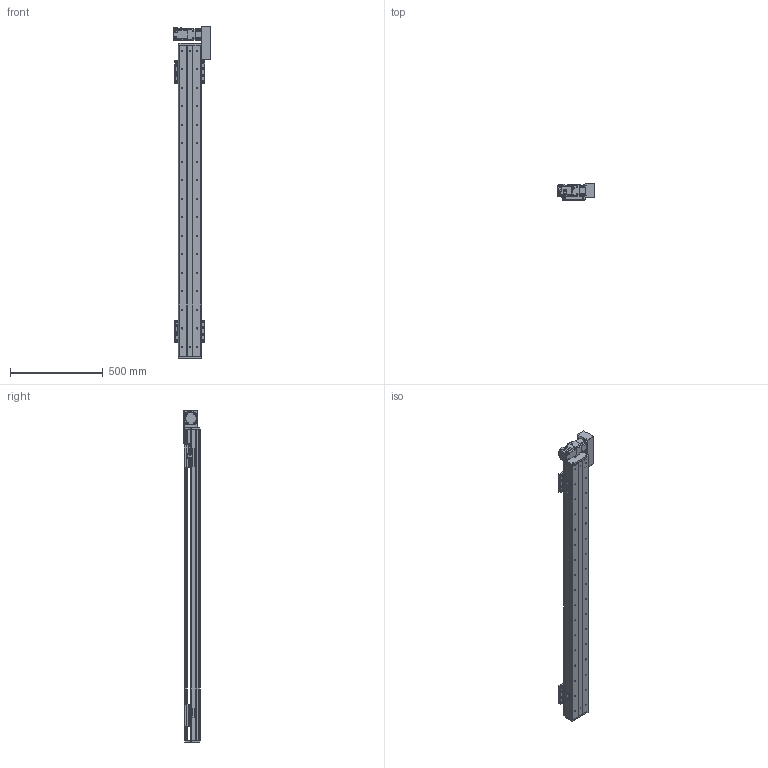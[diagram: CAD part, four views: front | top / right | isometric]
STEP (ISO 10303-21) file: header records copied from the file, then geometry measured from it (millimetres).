
FILE_DESCRIPTION(/* description */ (''),/* implementation_level */ '2;1');
FILE_NAME(/* name */ 'C:\Users\PC\Desktop\3D도면\STEP\STEP\DSB125-R2G-W1400-L.stp',/* time_stamp */ '2018-06-13T16:00:01+09:00',/* author */ ('PC'),/* organization */ (''),/* preprocessor_version */ 'ST-DEVELOPER v16.5',/* originating_system */ 'Autodesk Inventor 2017',/* authorisation */ '');
FILE_SCHEMA (('AUTOMOTIVE_DESIGN { 1 0 10303 214 3 1 1 }'));
Length unit declared in the file: millimetre
Products named in the file (12): DSB125-L2G-W1400-R_MIR; DSB125-BASE_MIR; DSB125-FRONT COVER_MIR; DSB125-REAR COVER_MIR; DSB125-UP COVER_MIR; DSB125-TABLE(MSB15S)_MIR; hg-kr23__MIR; ab0601-p0401200402_MIR; 13-BELT COVER_MIR; DSR125-SENSOR DOG_MIR; pm-y65_step_MIR; SENSOR BRACKET(EE-SX674A)_MIR
Assembly tree (16 placements, depth 2):
  DSB125-L2G-W1400-R_MIR
    DSB125-BASE_MIR
    DSB125-FRONT COVER_MIR
    DSB125-REAR COVER_MIR
    DSB125-UP COVER_MIR
    DSB125-TABLE(MSB15S)_MIR  x2
    hg-kr23__MIR
    ab0601-p0401200402_MIR
    13-BELT COVER_MIR
    DSR125-SENSOR DOG_MIR
    pm-y65_step_MIR  x3
    SENSOR BRACKET(EE-SX674A)_MIR  x3
Bounding box: 202.1 x 88 x 1794 mm (x, y, z)
Volume: 5941662 mm3; surface area: 1709256.9 mm2
Topology: 17 solids, 17 shells, 1679 faces, 4550 edges, 2996 vertices
Faces by surface type: plane 903, cylinder 640, cone 124, sphere 8, torus 4
Full cylindrical faces by diameter (mm): 2.459 x20, 3.242 x16, 3.5 x6, 4 x1, 4.134 x16, 4.2 x4, 4.3 x1, 4.5 x50, 4.917 x20, 5 x22, 5.3 x1, 5.5 x4, 5.6 x8, 5.8 x4, 5.9 x8, 6 x4, 6.6 x22, 6.647 x34, 7.5 x32, 8.5 x8, 8.7 x1, 11 x22, 14 x1, 16 x2, 17 x1, 20 x1, 47 x1, 50 x3
Entity records: 36389 total; most frequent: CARTESIAN_POINT 6543, DIRECTION 6186, ORIENTED_EDGE 5514, EDGE_CURVE 2757, AXIS2_PLACEMENT_3D 2281, VERTEX_POINT 1966, EDGE_LOOP 1709, LINE 1624
